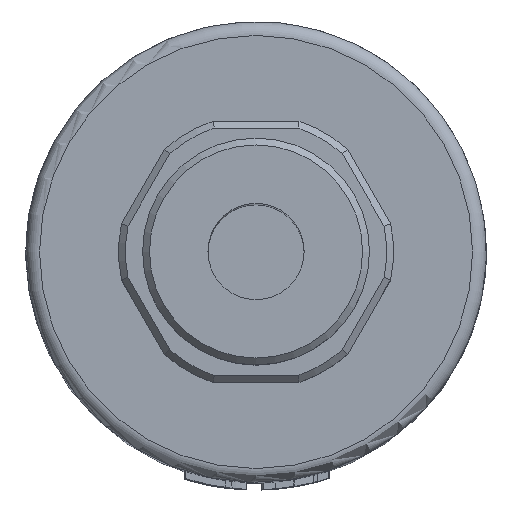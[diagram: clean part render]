
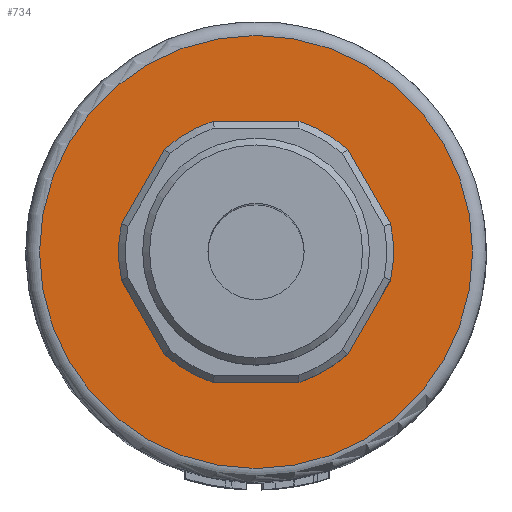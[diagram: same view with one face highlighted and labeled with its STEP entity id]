
A CAD part, top view. The second image highlights one B-rep face of the part: STEP entity #734.
In plain terms, the highlighted planar face has unit normal (0, 0, 1).
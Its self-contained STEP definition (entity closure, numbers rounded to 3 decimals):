
#149=FACE_BOUND('',#1651,.T.);
#150=FACE_BOUND('',#1652,.T.);
#277=CIRCLE('',#7018,7.);
#280=CIRCLE('',#7026,15.75);
#432=PLANE('',#7027);
#734=ADVANCED_FACE('',(#149,#150),#432,.F.);
#1651=EDGE_LOOP('',(#3663));
#1652=EDGE_LOOP('',(#3664));
#3663=ORIENTED_EDGE('',*,*,#5671,.T.);
#3664=ORIENTED_EDGE('',*,*,#5662,.T.);
#4778=VERTEX_POINT('',#14536);
#4783=VERTEX_POINT('',#14555);
#5662=EDGE_CURVE('',#4778,#4778,#277,.T.);
#5671=EDGE_CURVE('',#4783,#4783,#280,.T.);
#7018=AXIS2_PLACEMENT_3D('',#14535,#8014,#8015);
#7026=AXIS2_PLACEMENT_3D('',#14554,#8036,#8037);
#7027=AXIS2_PLACEMENT_3D('',#14556,#8038,#8039);
#8014=DIRECTION('',(0.,0.,-1.));
#8015=DIRECTION('',(-1.,0.,0.));
#8036=DIRECTION('',(0.,0.,1.));
#8037=DIRECTION('',(-1.,0.,0.));
#8038=DIRECTION('',(0.,0.,-1.));
#8039=DIRECTION('',(1.,0.,0.));
#14535=CARTESIAN_POINT('',(0.,0.,49.));
#14536=CARTESIAN_POINT('',(-7.,0.,49.));
#14554=CARTESIAN_POINT('',(0.,0.,49.));
#14555=CARTESIAN_POINT('',(-15.75,0.,49.));
#14556=CARTESIAN_POINT('',(0.,0.,49.));
